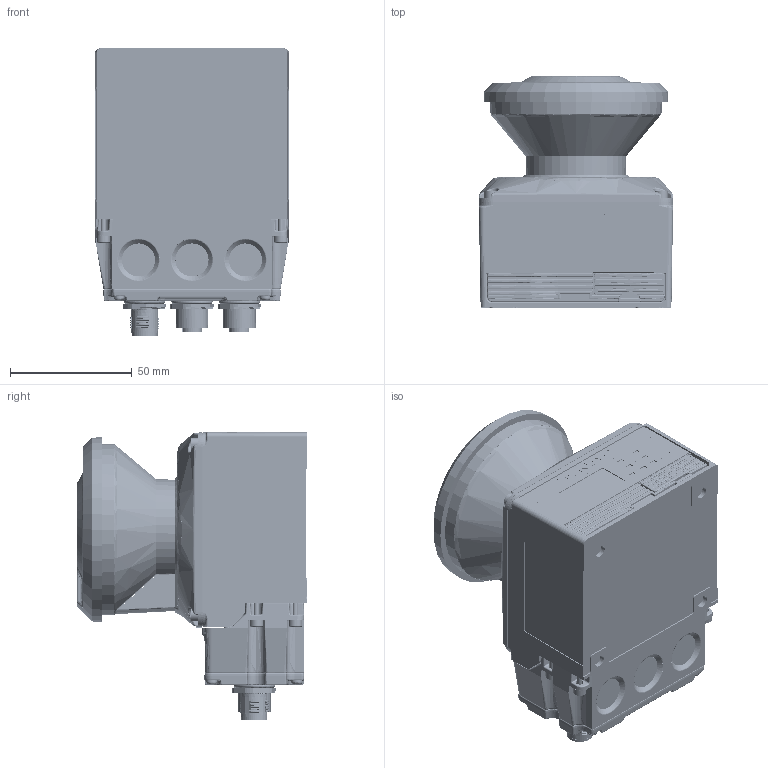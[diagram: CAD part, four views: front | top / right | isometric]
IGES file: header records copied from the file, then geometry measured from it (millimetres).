
Start section: SolidWorks IGES file using analytic representation for surfaces
Global section: file name: 4HC:\Users\hokuyo\Desktop\UAM-05LECA ﾃﾞｰﾀ\UAM-05LECA(ｺﾈｸﾀ背面).IGS; native system: SolidWorks 2022; preprocessor: SolidWorks 2022; author: hokuyo; date: 250724.142653; units: millimetre
Bounding box: 80 x 95 x 118.19 mm (x, y, z)
Surface area: 107345.8 mm2 (no closed solid volume)
Topology: 0 solids, 0 shells, 3551 faces, 32672 edges, 32570 vertices
Faces by surface type: bspline 2324, revolution 1227
